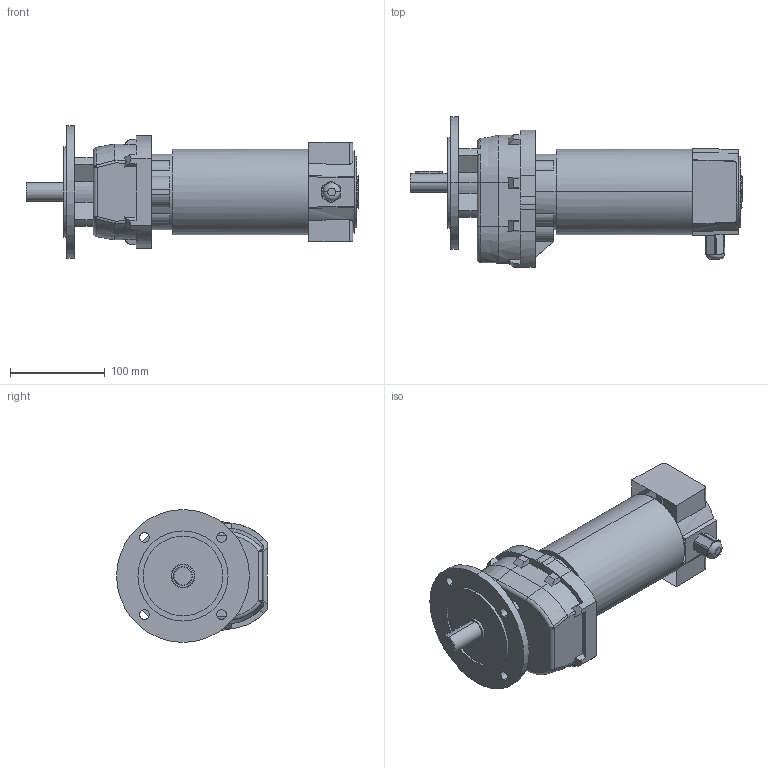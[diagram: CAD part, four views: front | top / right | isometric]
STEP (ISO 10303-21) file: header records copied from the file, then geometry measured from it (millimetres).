
FILE_DESCRIPTION(('OneSpaceDesigner STEP Export'),'2;1');
FILE_NAME('EPG23_SF60.stp','2008-07-17T12:54:53',(''),(''),'OneSpace Designer STEP processor (Jan. 2003) for AP214(CD)(Solid Model)','OneSpace Designer 12.01D 09-Jul-2004 (C) CoCreate Software GmbH','');
FILE_SCHEMA(('AUTOMOTIVE_DESIGN_CC2 {1 2 10303 214 -1 1 5 1}'));
Length unit declared in the file: millimetre
Products named in the file (2): EPG23_SF60
Assembly tree (1 placements, depth 2):
  EPG23_SF60
    EPG23_SF60
Bounding box: 350 x 159 x 140 mm (x, y, z)
Volume: 2417218.5 mm3; surface area: 162876.7 mm2
Topology: 1 solids, 1 shells, 190 faces, 508 edges, 333 vertices
Faces by surface type: plane 95, cylinder 67, bspline 12, torus 7, cone 7, extrusion 2
Entity records: 9248 total; most frequent: CARTESIAN_POINT 4731, ORIENTED_EDGE 1016, DIRECTION 811, EDGE_CURVE 508, VERTEX_POINT 333, AXIS2_PLACEMENT_3D 271, VECTOR 269, LINE 267
